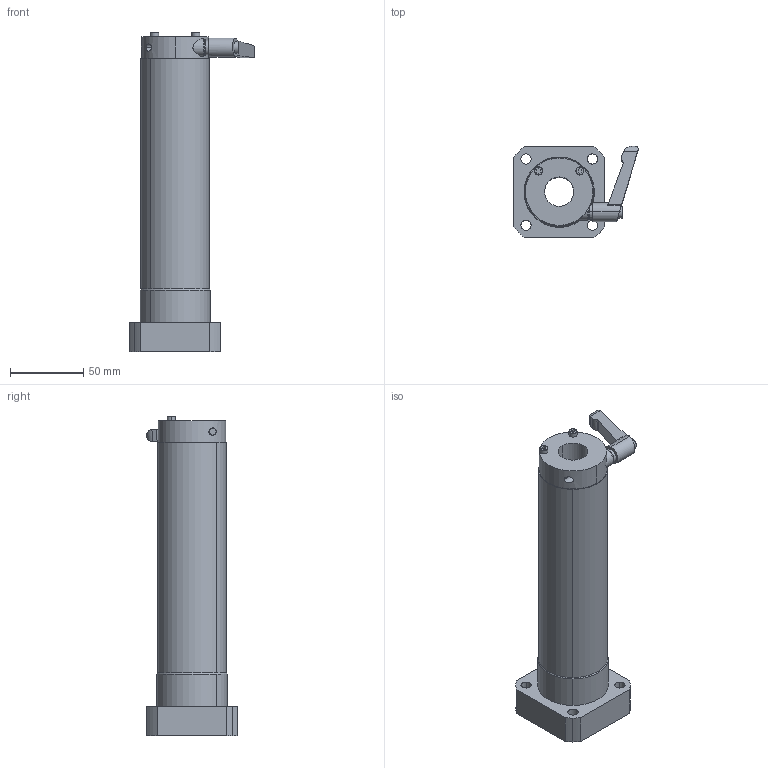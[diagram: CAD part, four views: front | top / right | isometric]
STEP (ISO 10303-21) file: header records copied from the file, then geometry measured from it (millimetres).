
FILE_DESCRIPTION (( 'STEP AP214' ), '1' );
FILE_NAME ('LFWL20BMF-C.STEP', '2023-06-27T04:23:58', ( '' ), ( '' ), 'SwSTEP 2.0', 'SolidWorks 2019', '' );
FILE_SCHEMA (( 'AUTOMOTIVE_DESIGN' ));
Length unit declared in the file: millimetre
Products named in the file (3): LFWL20BMF-C; LFWL20BMF; “ÁSCK2015CO-S3.4
Assembly tree (2 placements, depth 2):
  LFWL20BMF-C
    LFWL20BMF
    “ÁSCK2015CO-S3.4
Bounding box: 84.9 x 62 x 218 mm (x, y, z)
Volume: 345383.4 mm3; surface area: 67303.1 mm2
Topology: 3 solids, 9 shells, 210 faces, 513 edges, 326 vertices
Faces by surface type: cylinder 85, plane 61, bspline 43, cone 13, torus 8
Entity records: 9157 total; most frequent: CARTESIAN_POINT 1991, DIRECTION 1082, ORIENTED_EDGE 1026, EDGE_CURVE 513, AXIS2_PLACEMENT_3D 443, VERTEX_POINT 326, CIRCLE 271, EDGE_LOOP 255
